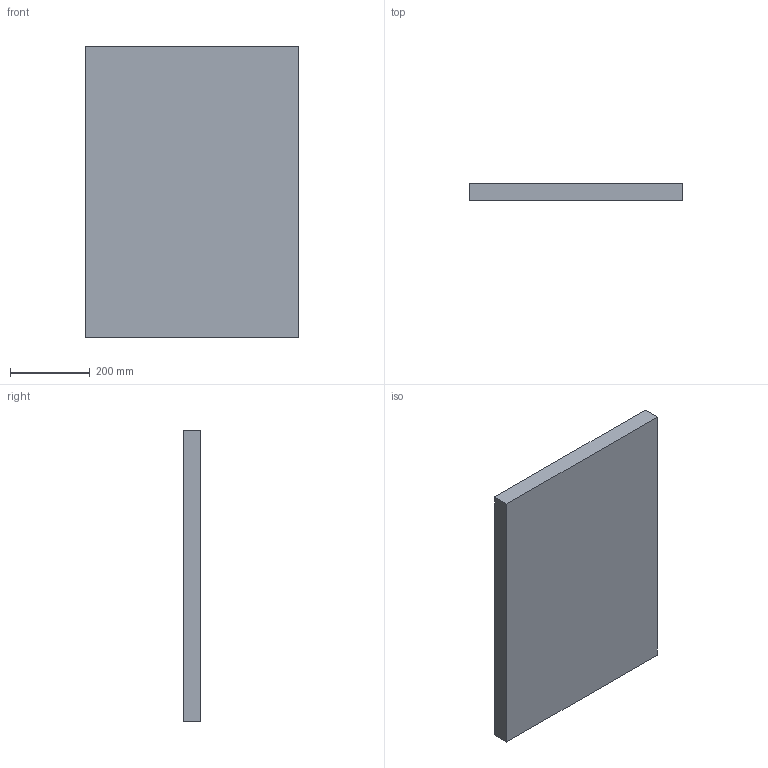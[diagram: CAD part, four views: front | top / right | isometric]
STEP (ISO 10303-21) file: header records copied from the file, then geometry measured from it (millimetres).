
FILE_DESCRIPTION((''),'2;1');
FILE_NAME('AIRFLOWBLANK_ORV3_1OU_SHORT','2021-08-18T22:52:14',('dmshapir'),('FACEBOOK, INC'),'CREO PARAMETRIC BY PTC INC, 2020454','CREO PARAMETRIC BY PTC INC, 2020454','');
FILE_SCHEMA(('AUTOMOTIVE_DESIGN { 1 0 10303 214 1 1 1 1 }'));
Length unit declared in the file: millimetre
Products named in the file (1): AIRFLOWBLANK_ORV3_1OU_SHORT
Bounding box: 534 x 43.15 x 730.6 mm (x, y, z)
Volume: 16834558.3 mm3; surface area: 889415.8 mm2
Topology: 1 solids, 1 shells, 6 faces, 517 edges, 513 vertices
Faces by surface type: plane 6
Entity records: 5363 total; most frequent: CARTESIAN_POINT 922, PRESENTATION_STYLE_ASSIGNMENT 522, STYLED_ITEM 522, CURVE_STYLE 521, COMPOSITE_CURVE_SEGMENT 505, DIRECTION 435, VECTOR 392, LINE 392
